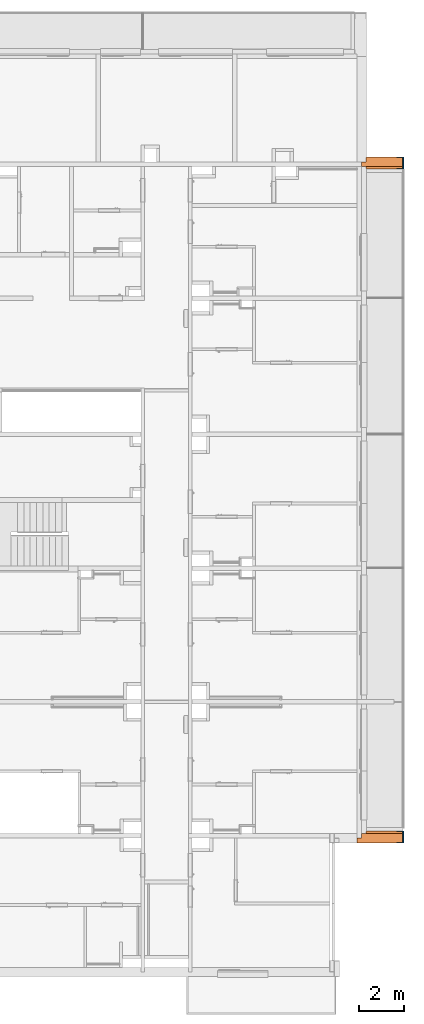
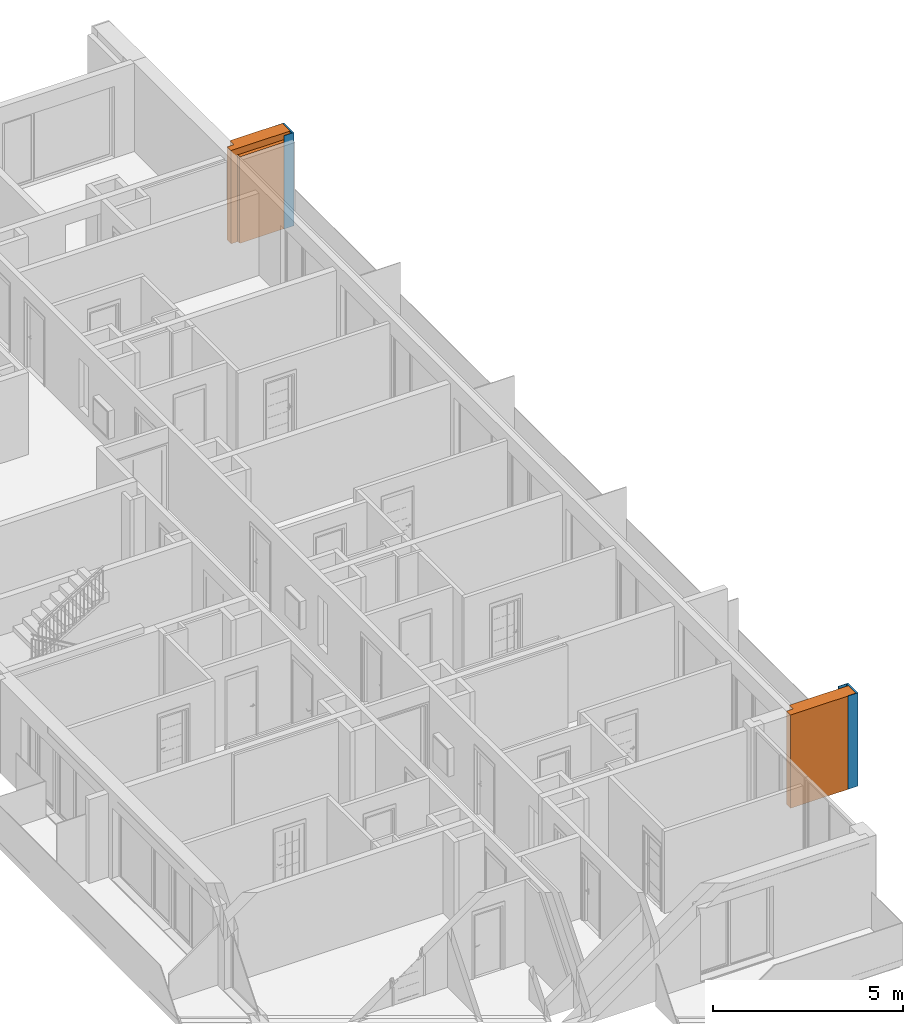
# One storey, part 47 of 64: 2 proxies, 2 walls, 2 openings.
"""IFC2X3 building model written with IfcOpenShell, lengths in millimetres."""

from ifc_helpers import new_model, entity, si_unit, converted_unit, derived_unit, money_unit, direction, frame, origin_with_axes, origin_2d_with_axis, place, context, subcontext, project, spatial, rectangle, extrude, faceted_brep, source, transform, mapped, material, material_list, type_object, element, fill, save


model = new_model("IFC2X3")

# Units and contexts
model_context = context("Model", 3, precision=0.01, world=origin_with_axes(), true_north=direction((0.34421633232, 0.938890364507)))
body_context = subcontext(model_context, "Body", "Model", "MODEL_VIEW")
ifc_project = project(units=[si_unit("LENGTHUNIT", "METRE", prefix="MILLI"), si_unit("AREAUNIT", "SQUARE_METRE"), si_unit("VOLUMEUNIT", "CUBIC_METRE"), converted_unit("PLANEANGLEUNIT", "DEGREE", entity("IfcPlaneAngleMeasure", 0.0174532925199), si_unit("PLANEANGLEUNIT", "RADIAN"), dimensions=[0, 0, 0, 0, 0, 0, 0]), si_unit("SOLIDANGLEUNIT", "STERADIAN"), money_unit("USD"), converted_unit("TIMEUNIT", "Year", entity("IfcTimeMeasure", 31556926.0), si_unit("TIMEUNIT", "SECOND"), dimensions=[0, 0, 1, 0, 0, 0, 0]), si_unit("MASSUNIT", "GRAM", prefix="KILO"), si_unit("THERMODYNAMICTEMPERATUREUNIT", "DEGREE_CELSIUS"), si_unit("LUMINOUSINTENSITYUNIT", "LUMEN"), si_unit("ENERGYUNIT", "JOULE", prefix="MEGA"), derived_unit("THERMALCONDUCTANCEUNIT", [(si_unit("POWERUNIT", "WATT"), 1), (si_unit("LENGTHUNIT", "METRE"), -1), (si_unit("THERMODYNAMICTEMPERATUREUNIT", "KELVIN"), -1)]), derived_unit("SPECIFICHEATCAPACITYUNIT", [(si_unit("ENERGYUNIT", "JOULE"), 1), (si_unit("MASSUNIT", "GRAM", prefix="KILO"), -1), (si_unit("THERMODYNAMICTEMPERATUREUNIT", "KELVIN"), -1)]), derived_unit("MASSDENSITYUNIT", [(si_unit("MASSUNIT", "GRAM", prefix="KILO"), 1), (si_unit("VOLUMEUNIT", "CUBIC_METRE"), -1)])], contexts=[model_context])

# Site, building, storey
site_placement = place(None, origin_with_axes())
site = spatial("IfcSite", under=ifc_project, at=site_placement, Name="USTRONIE MORSKIE", CompositionType="ELEMENT")
building_placement = place(site_placement, origin_with_axes())
building = spatial("IfcBuilding", under=site, at=building_placement, Name="Budynek", CompositionType="ELEMENT")
storey_placement = place(building_placement, frame((0.0, 0.0, 7000.0), z_axis=(0.0, 0.0, 1.0), x_axis=(1.0, 0.0, 0.0)))
storey = spatial("IfcBuildingStorey", under=building, at=storey_placement, Name="PIĘTRO 2", CompositionType="ELEMENT", Elevation=7000.0)

# Proxy, opening, wall
ifc_material_1 = material(Name="Tynk zewnętrzny")
ifc_material_2 = material(Name="Wełna ELEW")
ifc_material_3 = material(Name="Beton konstrukcyjny B25")
ifc_material_list = material_list([ifc_material_1, ifc_material_2, ifc_material_3, ifc_material_2, ifc_material_1])
building_element_proxy_type = type_object("IfcBuildingElementProxyType", Name="BALKON bok 01 520", PredefinedType="NOTDEFINED")
proxy_1_placement = place(storey_placement, frame((425567.914785, 715101.199036, -160.0), z_axis=(0.0, 0.0, 1.0), x_axis=(1.0, 0.0, 0.0)))
proxy_1 = element("IfcBuildingElementProxy", 1, at=proxy_1_placement, inside=storey, type_object=building_element_proxy_type, material=ifc_material_list, Name="Œciana-006", context=body_context, shape_type="Brep", body=[
    faceted_brep([(310.006134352, 210.0, 2789.99999183), (310.006134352, 200.0, 2789.99999183), (1910.03653466, 200.0, 2789.99999183), (1910.03653466, 210.0, 2789.99999183), (310.006134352, 200.0, 9.9999962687), (310.006134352, 210.0, 9.9999962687), (1910.0366189, 200.0, 10.0000009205), (1910.0366189, 200.0, 0.0), (1949.99981809, 200.0, 0.0), (1949.99981809, 200.0, 3000.0), (1910.03653466, 200.0, 3000.0), (1910.03653466, 210.0, 3000.0), (1910.0366189, 210.0, 10.0000009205), (1949.99981809, 210.0, 3000.0), (1949.99981809, 210.0, 0.0), (1910.0366189, 210.0, 0.0)], [[[0, 1, 2, 3]], [[4, 1, 0, 5]], [[4, 6, 7, 8, 9, 10, 2, 1]], [[2, 10, 11, 3]], [[12, 5, 0, 3, 11, 13, 14, 15]], [[6, 4, 5, 12]], [[7, 6, 12, 15]], [[14, 8, 7, 15]], [[8, 14, 13, 9]], [[10, 9, 13, 11]]]),
    faceted_brep([(1910.0366189, 100.0, 10.0000009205), (300.006109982, 100.0, 9.99999623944), (300.006109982, 200.0, 9.99999623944), (1910.0366189, 200.0, 10.0000009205), (1910.0366189, 100.0, 0.0), (1949.99981809, 100.0, 0.0), (1949.99981809, 100.0, 3000.0), (1910.03653466, 100.0, 3000.00001816), (1910.03653466, 100.0, 2789.99999183), (310.005452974, 100.0, 2789.99999183), (310.005937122, 100.0, 2800.00001425), (300.006134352, 100.0, 2800.00001286), (300.006134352, 200.0, 2799.99999896), (310.005937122, 200.0, 2800.00001425), (310.005452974, 200.0, 2789.99999183), (1910.03653466, 200.0, 2789.99999183), (1910.03653466, 200.0, 3000.00001816), (1949.99981809, 200.0, 3000.0), (1949.99981809, 200.0, 0.0), (1910.0366189, 200.0, 0.0)], [[[0, 1, 2, 3]], [[1, 0, 4, 5, 6, 7, 8, 9, 10, 11]], [[2, 1, 11, 12]], [[2, 12, 13, 14, 15, 16, 17, 18, 19, 3]], [[3, 19, 4, 0]], [[4, 19, 18, 5]], [[5, 18, 17, 6]], [[16, 7, 6, 17]], [[7, 16, 15, 8]], [[15, 14, 9, 8]], [[14, 13, 10, 9]], [[10, 13, 12, 11]]]),
    faceted_brep([(100.006134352, 100.0, 0.0), (1949.99981809, 100.0, 0.0), (1949.99981809, -100.0, 0.0), (100.006134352, -100.0, 0.0), (100.006134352, 100.0, 3000.0), (1949.99981809, 100.0, 3000.0), (1949.99981809, -100.0, 3000.0), (100.006134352, -100.0, 3000.0)], [[[0, 1, 2, 3]], [[4, 5, 1, 0]], [[2, 1, 5, 6]], [[3, 2, 6, 7]], [[4, 0, 3, 7]], [[7, 6, 5, 4]]]),
    faceted_brep([(-99.9938656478, -100.0, 0.0), (1949.99981809, -100.0, 0.0), (1949.99981809, -300.0, 0.0), (-99.9938656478, -300.0, 0.0), (-99.9938656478, -100.0, 3000.0), (1949.99981809, -100.0, 3000.0), (1949.99981809, -300.0, 3000.0), (-99.9938656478, -300.0, 3000.0)], [[[0, 1, 2, 3]], [[4, 5, 1, 0]], [[2, 1, 5, 6]], [[3, 2, 6, 7]], [[4, 0, 3, 7]], [[7, 6, 5, 4]]]),
    faceted_brep([(-99.9938656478, -300.0, 0.0), (1949.99981809, -300.0, 0.0), (1949.99981809, -310.0, 0.0), (-99.9938656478, -310.0, 0.0), (-99.9938656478, -300.0, 3000.0), (1949.99981809, -300.0, 3000.0), (1949.99981809, -310.0, 3000.0), (-99.9938656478, -310.0, 3000.0)], [[[0, 1, 2, 3]], [[4, 5, 1, 0]], [[2, 1, 5, 6]], [[3, 2, 6, 7]], [[4, 0, 3, 7]], [[7, 6, 5, 4]]]),
])
opening_1_placement = place(proxy_1_placement, frame((1949.99981809, 0.0, 0.0), z_axis=(0.0, 0.0, 1.0), x_axis=(1.0, 0.0, 0.0)))
opening_1 = element("IfcOpeningElement", 2, at=opening_1_placement, cuts=proxy_1, Name="ZS1", context=body_context, shape_type="SweptSolid", body=[
    extrude(rectangle(XDim=9.99999999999, YDim=50.0, at=origin_2d_with_axis()), frame((-25.0, 205.0, 0.0), z_axis=(0.0, 0.0, 1.0), x_axis=(0.0, -1.0, 0.0)), (0.0, 0.0, 1.0), 3000.0),
    extrude(rectangle(XDim=9.99999999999, YDim=250.0, at=origin_2d_with_axis()), frame((-175.0, 205.0, 0.0), z_axis=(0.0, 0.0, 1.0), x_axis=(0.0, -1.0, 0.0)), (0.0, 0.0, 1.0), 3000.0),
    extrude(rectangle(XDim=9.99999999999, YDim=50.0, at=origin_2d_with_axis()), frame((-25.0, -305.0, 0.0), z_axis=(0.0, 0.0, 1.0), x_axis=(0.0, -1.0, 0.0)), (0.0, 0.0, 1.0), 3000.0),
    extrude(rectangle(XDim=9.99999999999, YDim=250.0, at=origin_2d_with_axis()), frame((-175.0, -305.0, 0.0), z_axis=(0.0, 0.0, 1.0), x_axis=(0.0, -1.0, 0.0)), (0.0, 0.0, 1.0), 3000.0),
    extrude(rectangle(XDim=500.0, YDim=50.0, at=origin_2d_with_axis()), frame((-25.0, -50.0, 0.0), z_axis=(0.0, 0.0, 1.0), x_axis=(0.0, -1.0, 0.0)), (0.0, 0.0, 1.0), 3000.0),
])
wall_type = type_object("IfcWallType", Name="Zakończenie zamknięte 23", PredefinedType="NOTDEFINED")
shared_shape_1 = source(origin_with_axes(), body_context, "Body", "Brep", [
    faceted_brep([(0.0, 0.0, 0.0), (0.0, -50.0, 0.0), (0.0, -50.0, 3000.0), (0.0, 0.0, 3000.0), (10.0, 0.0, 0.0), (10.0, -50.0, 0.0), (10.0, -50.0, 3000.0), (10.0, 0.0, 3000.0)], [[[0, 1, 2, 3]], [[4, 5, 1, 0]], [[5, 6, 2, 1]], [[6, 7, 3, 2]], [[7, 4, 0, 3]], [[4, 7, 6, 5]]]),
    faceted_brep([(0.0, -50.0, 0.0), (0.0, -300.0, 0.0), (0.0, -300.0, 3000.0), (0.0, -50.0, 3000.0), (10.0, -50.0, 0.0), (10.0, -300.0, 0.0), (10.0, -300.0, 3000.0), (10.0, -50.0, 3000.0)], [[[0, 1, 2, 3]], [[4, 5, 1, 0]], [[5, 6, 2, 1]], [[6, 7, 3, 2]], [[7, 4, 0, 3]], [[4, 7, 6, 5]]]),
    faceted_brep([(510.0, 0.0, 0.0), (510.0, -50.0, 0.0), (510.0, -50.0, 3000.0), (510.0, 0.0, 3000.0), (520.0, 0.0, 0.0), (520.0, -50.0, 0.0), (520.0, -50.0, 3000.0), (520.0, 0.0, 3000.0)], [[[0, 1, 2, 3]], [[4, 5, 1, 0]], [[5, 6, 2, 1]], [[6, 7, 3, 2]], [[7, 4, 0, 3]], [[4, 7, 6, 5]]]),
    faceted_brep([(510.0, -50.0, 0.0), (510.0, -300.0, 0.0), (510.0, -300.0, 3000.0), (510.0, -50.0, 3000.0), (520.0, -50.0, 0.0), (520.0, -300.0, 0.0), (520.0, -300.0, 3000.0), (520.0, -50.0, 3000.0)], [[[0, 1, 2, 3]], [[4, 5, 1, 0]], [[5, 6, 2, 1]], [[6, 7, 3, 2]], [[7, 4, 0, 3]], [[4, 7, 6, 5]]]),
    faceted_brep([(10.0, 0.0, 0.0), (10.0, -50.0, 0.0), (10.0, -50.0, 3000.0), (10.0, 0.0, 3000.0), (510.0, 0.0, 0.0), (510.0, -50.0, 0.0), (510.0, -50.0, 3000.0), (510.0, 0.0, 3000.0)], [[[0, 1, 2, 3]], [[4, 5, 1, 0]], [[5, 6, 2, 1]], [[6, 7, 3, 2]], [[7, 4, 0, 3]], [[4, 7, 6, 5]]]),
])
wall_1_placement = place(opening_1_placement, frame((-150.0, 0.0, 0.0), z_axis=(0.0, 0.0, 1.0), x_axis=(1.0, 0.0, 0.0)))
wall_1 = element("IfcWall", 3, at=wall_1_placement, inside=storey, type_object=wall_type, material=ifc_material_1, Name="ZS1", context=body_context, shape_type="MappedRepresentation", body=[
    mapped(shared_shape_1, transform((150.0, 210.0, 0.0), x_axis=(0.0, -1.0, 0.0), y_axis=(1.0, 0.0, 0.0), z_axis=(0.0, 0.0, 1.0))),
])
fill(opening_1, wall_1)

proxy_2_placement = place(storey_placement, frame((425567.914785, 744701.199036, -160.0), z_axis=(0.0, 0.0, 1.0), x_axis=(1.0, 0.0, 0.0)))
proxy_2 = element("IfcBuildingElementProxy", 4, at=proxy_2_placement, inside=storey, type_object=building_element_proxy_type, material=ifc_material_list, Name="Œciana-006", context=body_context, shape_type="Brep", body=[
    faceted_brep([(310.006134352, 310.0, 2800.0), (310.006134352, 310.0, 3000.0), (1949.99981809, 310.0, 3000.0), (1949.99981809, 310.0, 0.0), (310.006134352, 310.0, 0.0), (310.006134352, 300.0, 3000.0), (310.006134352, 300.0, 2800.0), (1949.99981809, 300.0, 3000.0), (1949.99981809, 300.0, 0.0), (310.006134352, 300.0, 0.0)], [[[0, 1, 2, 3, 4]], [[5, 1, 0, 6]], [[1, 5, 7, 2]], [[3, 2, 7, 8]], [[9, 4, 3, 8]], [[6, 0, 4, 9]], [[5, 6, 9, 8, 7]]]),
    faceted_brep([(300.006134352, 300.0, 2800.0), (300.006134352, 300.0, 3000.0), (1949.99981809, 300.0, 3000.0), (1949.99981809, 300.0, 0.0), (300.006134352, 300.0, 0.0), (300.006134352, 100.0, 3000.0), (300.006134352, 100.0, 2800.0), (1949.99981809, 100.0, 3000.0), (1949.99981809, 100.0, 0.0), (300.006134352, 100.0, 0.0)], [[[0, 1, 2, 3, 4]], [[5, 1, 0, 6]], [[1, 5, 7, 2]], [[3, 2, 7, 8]], [[9, 4, 3, 8]], [[6, 0, 4, 9]], [[5, 6, 9, 8, 7]]]),
    faceted_brep([(100.006134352, 100.0, 0.0), (100.006134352, 100.0, 2800.0), (100.006134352, 100.0, 3000.0), (1949.99981809, 100.0, 3000.0), (1949.99981809, 100.0, 0.0), (100.006134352, -100.0, 0.0), (100.006134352, -100.0, 2800.0), (100.006134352, -100.0, 3000.0), (1949.99981809, -100.0, 3000.0), (1949.99981809, -100.0, 0.0)], [[[0, 1, 2, 3, 4]], [[5, 6, 1, 0]], [[6, 7, 2, 1]], [[3, 2, 7, 8]], [[9, 4, 3, 8]], [[9, 5, 0, 4]], [[7, 6, 5, 9, 8]]]),
    faceted_brep([(1910.0366189, -200.0, 10.0000009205), (300.006109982, -200.0, 9.99999623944), (300.006109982, -100.0, 9.99999623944), (1910.0366189, -100.0, 10.0000009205), (1910.0366189, -200.0, 0.0), (1949.99981809, -200.0, 0.0), (1949.99981809, -200.0, 3000.0), (1910.03653466, -200.0, 3000.00001816), (1910.03653466, -200.0, 2789.99999183), (310.005452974, -200.0, 2789.99999183), (310.005937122, -200.0, 2800.00001425), (300.006134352, -200.0, 2799.99999896), (300.006134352, -100.0, 2800.00001286), (310.005937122, -100.0, 2800.00001425), (310.005452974, -100.0, 2789.99999183), (1910.03653466, -100.0, 2789.99999183), (1910.03653466, -100.0, 3000.00001816), (1949.99981809, -100.0, 3000.0), (1949.99981809, -100.0, 0.0), (1910.0366189, -100.0, 0.0)], [[[0, 1, 2, 3]], [[1, 0, 4, 5, 6, 7, 8, 9, 10, 11]], [[2, 1, 11, 12]], [[2, 12, 13, 14, 15, 16, 17, 18, 19, 3]], [[3, 19, 4, 0]], [[4, 19, 18, 5]], [[5, 18, 17, 6]], [[16, 7, 6, 17]], [[7, 16, 15, 8]], [[15, 14, 9, 8]], [[14, 13, 10, 9]], [[10, 13, 12, 11]]]),
    faceted_brep([(310.006134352, -200.0, 2789.99999183), (310.006134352, -210.0, 2789.99999183), (1910.03653466, -210.0, 2789.99999183), (1910.03653466, -200.0, 2789.99999183), (310.006134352, -200.0, 9.9999962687), (310.006134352, -210.0, 9.9999962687), (1910.0366189, -210.0, 10.0000009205), (1910.0366189, -210.0, 0.0), (1949.99981809, -210.0, 0.0), (1949.99981809, -210.0, 3000.0), (1910.03653466, -210.0, 3000.0), (1910.03653466, -200.0, 3000.0), (1910.0366189, -200.0, 10.0000009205), (1949.99981809, -200.0, 3000.0), (1949.99981809, -200.0, 0.0), (1910.0366189, -200.0, 0.0)], [[[0, 1, 2, 3]], [[1, 0, 4, 5]], [[5, 6, 7, 8, 9, 10, 2, 1]], [[11, 3, 2, 10]], [[12, 4, 0, 3, 11, 13, 14, 15]], [[6, 5, 4, 12]], [[7, 6, 12, 15]], [[14, 8, 7, 15]], [[9, 8, 14, 13]], [[11, 10, 9, 13]]]),
])
opening_2_placement = place(proxy_2_placement, frame((1949.99981809, 0.0, 0.0), z_axis=(0.0, 0.0, 1.0), x_axis=(1.0, 0.0, 0.0)))
opening_2 = element("IfcOpeningElement", 5, at=opening_2_placement, cuts=proxy_2, Name="ZS1", context=body_context, shape_type="SweptSolid", body=[
    extrude(rectangle(XDim=9.99999999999, YDim=50.0, at=origin_2d_with_axis()), frame((-25.0, 305.0, 0.0), z_axis=(0.0, 0.0, 1.0), x_axis=(0.0, -1.0, 0.0)), (0.0, 0.0, 1.0), 3000.0),
    extrude(rectangle(XDim=9.99999999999, YDim=250.0, at=origin_2d_with_axis()), frame((-175.0, 305.0, 0.0), z_axis=(0.0, 0.0, 1.0), x_axis=(0.0, -1.0, 0.0)), (0.0, 0.0, 1.0), 3000.0),
    extrude(rectangle(XDim=9.99999999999, YDim=50.0, at=origin_2d_with_axis()), frame((-25.0, -205.0, 0.0), z_axis=(0.0, 0.0, 1.0), x_axis=(0.0, -1.0, 0.0)), (0.0, 0.0, 1.0), 3000.0),
    extrude(rectangle(XDim=9.99999999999, YDim=250.0, at=origin_2d_with_axis()), frame((-175.0, -205.0, 0.0), z_axis=(0.0, 0.0, 1.0), x_axis=(0.0, -1.0, 0.0)), (0.0, 0.0, 1.0), 3000.0),
    extrude(rectangle(XDim=500.0, YDim=50.0, at=origin_2d_with_axis()), frame((-25.0, 50.0, 0.0), z_axis=(0.0, 0.0, 1.0), x_axis=(0.0, -1.0, 0.0)), (0.0, 0.0, 1.0), 3000.0),
])
shared_shape_2 = source(origin_with_axes(), body_context, "Body", "Brep", [
    faceted_brep([(0.0, 0.0, 0.0), (0.0, -50.0, 0.0), (0.0, -50.0, 3000.0), (0.0, 0.0, 3000.0), (10.0, 0.0, 0.0), (10.0, -50.0, 0.0), (10.0, -50.0, 3000.0), (10.0, 0.0, 3000.0)], [[[0, 1, 2, 3]], [[4, 5, 1, 0]], [[5, 6, 2, 1]], [[6, 7, 3, 2]], [[7, 4, 0, 3]], [[4, 7, 6, 5]]]),
    faceted_brep([(0.0, -50.0, 0.0), (0.0, -300.0, 0.0), (0.0, -300.0, 3000.0), (0.0, -50.0, 3000.0), (10.0, -50.0, 0.0), (10.0, -300.0, 0.0), (10.0, -300.0, 3000.0), (10.0, -50.0, 3000.0)], [[[0, 1, 2, 3]], [[4, 5, 1, 0]], [[5, 6, 2, 1]], [[6, 7, 3, 2]], [[7, 4, 0, 3]], [[4, 7, 6, 5]]]),
    faceted_brep([(510.0, 0.0, 0.0), (510.0, -50.0, 0.0), (510.0, -50.0, 3000.0), (510.0, 0.0, 3000.0), (520.0, 0.0, 0.0), (520.0, -50.0, 0.0), (520.0, -50.0, 3000.0), (520.0, 0.0, 3000.0)], [[[0, 1, 2, 3]], [[4, 5, 1, 0]], [[5, 6, 2, 1]], [[6, 7, 3, 2]], [[7, 4, 0, 3]], [[4, 7, 6, 5]]]),
    faceted_brep([(510.0, -50.0, 0.0), (510.0, -300.0, 0.0), (510.0, -300.0, 3000.0), (510.0, -50.0, 3000.0), (520.0, -50.0, 0.0), (520.0, -300.0, 0.0), (520.0, -300.0, 3000.0), (520.0, -50.0, 3000.0)], [[[0, 1, 2, 3]], [[4, 5, 1, 0]], [[5, 6, 2, 1]], [[6, 7, 3, 2]], [[7, 4, 0, 3]], [[4, 7, 6, 5]]]),
    faceted_brep([(10.0, 0.0, 0.0), (10.0, -50.0, 0.0), (10.0, -50.0, 3000.0), (10.0, 0.0, 3000.0), (510.0, 0.0, 0.0), (510.0, -50.0, 0.0), (510.0, -50.0, 3000.0), (510.0, 0.0, 3000.0)], [[[0, 1, 2, 3]], [[4, 5, 1, 0]], [[5, 6, 2, 1]], [[6, 7, 3, 2]], [[7, 4, 0, 3]], [[4, 7, 6, 5]]]),
])
wall_2_placement = place(opening_2_placement, frame((150.0, 0.0, 0.0), z_axis=(0.0, 0.0, 1.0), x_axis=(-1.0, 0.0, 0.0)))
wall_2 = element("IfcWall", 6, at=wall_2_placement, inside=storey, type_object=wall_type, material=ifc_material_1, Name="ZS1", context=body_context, shape_type="MappedRepresentation", body=[
    mapped(shared_shape_2, transform((150.0, -310.0, 0.0), x_axis=(0.0, 1.0, 0.0), y_axis=(-1.0, 0.0, 0.0), z_axis=(0.0, 0.0, 1.0))),
])
fill(opening_2, wall_2)

save(model, "model.ifc")
